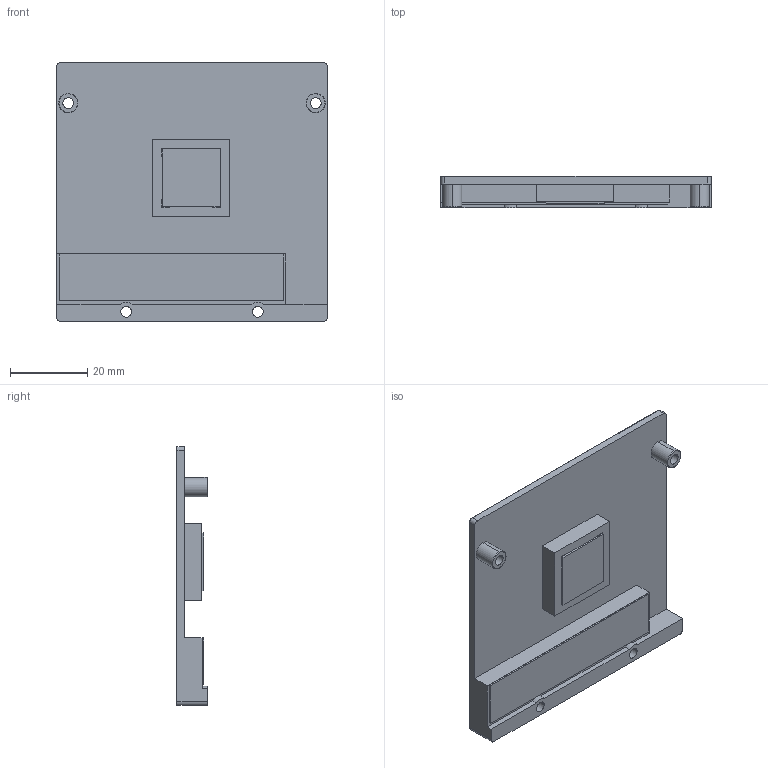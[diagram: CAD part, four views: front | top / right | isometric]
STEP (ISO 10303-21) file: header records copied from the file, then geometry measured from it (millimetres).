
FILE_DESCRIPTION((''),'2;1');
FILE_NAME('E1961223000015R_ASM','2018-09-25T11:48:16',('jamie_liao'),(''),'CREO PARAMETRIC BY PTC INC, 2017110','CREO PARAMETRIC BY PTC INC, 2017110','');
FILE_SCHEMA(('CONFIG_CONTROL_DESIGN','GEOMETRIC_VALIDATION_PROPERTIES_MIM'));
Length unit declared in the file: millimetre
Products named in the file (4): E1961223000015R_14; K14_THERMAL_PAD_05T; K6_58X12X05; E1961223000015R_ASM
Assembly tree (3 placements, depth 2):
  E1961223000015R_ASM
    E1961223000015R_14
    K14_THERMAL_PAD_05T
    K6_58X12X05
Bounding box: 70 x 8 x 67 mm (x, y, z)
Volume: 17064.5 mm3; surface area: 13629.9 mm2
Topology: 3 solids, 3 shells, 98 faces, 265 edges, 177 vertices
Faces by surface type: plane 60, cylinder 22, torus 8, cone 8
Entity records: 3459 total; most frequent: DIRECTION 561, CARTESIAN_POINT 554, ORIENTED_EDGE 526, EDGE_CURVE 263, AXIS2_PLACEMENT_3D 193, VERTEX_POINT 176, VECTOR 175, LINE 175
